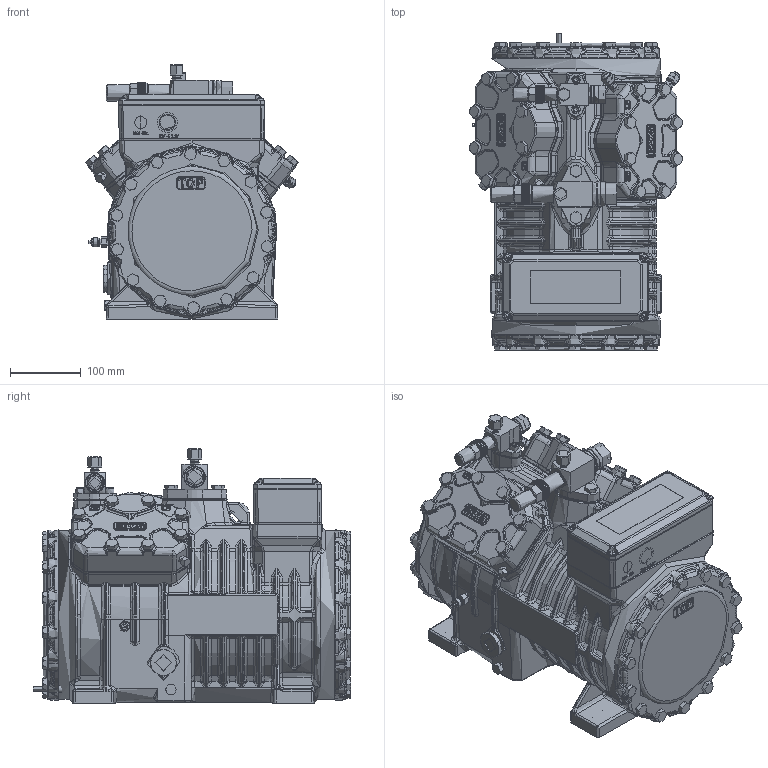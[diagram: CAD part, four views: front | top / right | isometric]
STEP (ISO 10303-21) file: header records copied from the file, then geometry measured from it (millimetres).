
FILE_DESCRIPTION(('TFLEX Exchange Step'),'2;1');
FILE_NAME('4EC-4.3Z_4EC-6.3G_4DC-5.3Z.stp', '2024-12-02T17:36:07+03:00',('RUCO3143'),('Unknown organisation'),'TFLEX Exchange 2024.6','T-FLEX CAD','Unknown authorisation');
FILE_SCHEMA( ('AUTOMOTIVE_DESIGN { 1 0 10303 214 1 1 1 1 }') );
Length unit declared in the file: millimetre
Bounding box: 301.19 x 448.18 x 358.9 mm (x, y, z)
Volume: 23536452.9 mm3; surface area: 1208059.9 mm2
Topology: 9 solids, 15 shells, 6076 faces, 15094 edges, 9087 vertices
Faces by surface type: plane 1863, bspline 1700, cylinder 1049, cone 746, torus 592, sphere 67, extrusion 59
Full cylindrical faces by diameter (mm): 4.5 x1, 6 x1, 7 x2, 8 x1, 8.5 x4, 9 x5, 10 x1, 11 x5, 12 x2, 13 x5, 19 x1, 20.098 x1, 21 x4, 22.3 x1, 22.4 x1, 23 x1, 23.96 x1, 24 x2, 25 x1, 26 x3, 27 x1, 30 x1, 31.6 x1, 32 x1, 33 x1, 35 x3, 49 x1, 237 x2, 238.5 x2
Entity records: 281056 total; most frequent: CARTESIAN_POINT 154932, ORIENTED_EDGE 29804, DIRECTION 21644, EDGE_CURVE 14902, VERTEX_POINT 9087, AXIS2_PLACEMENT_3D 8776, EDGE_LOOP 6323, FACE_BOUND 6323
